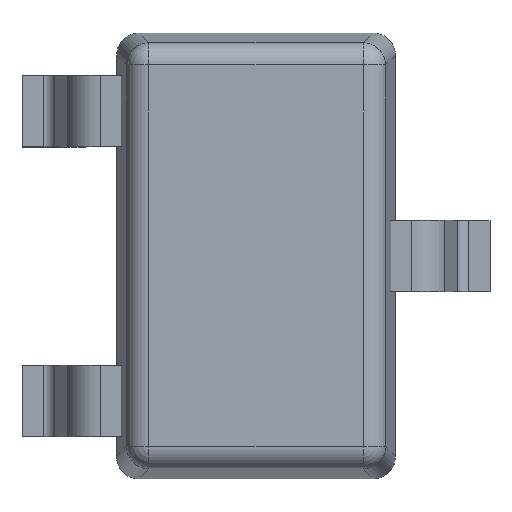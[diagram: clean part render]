
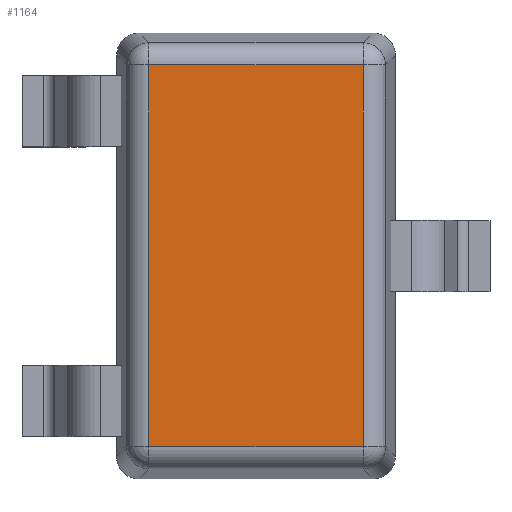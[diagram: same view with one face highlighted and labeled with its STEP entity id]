
A CAD part, top view. The second image highlights one B-rep face of the part: STEP entity #1164.
In plain terms, the highlighted planar face has unit normal (0, 0, 1).
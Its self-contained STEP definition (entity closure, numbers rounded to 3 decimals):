
#124=ORIENTED_EDGE('',*,*,#468,.T.);
#125=ORIENTED_EDGE('',*,*,#469,.T.);
#126=ORIENTED_EDGE('',*,*,#470,.T.);
#127=ORIENTED_EDGE('',*,*,#471,.T.);
#468=EDGE_CURVE('',#640,#641,#744,.F.);
#469=EDGE_CURVE('',#641,#642,#745,.F.);
#470=EDGE_CURVE('',#642,#643,#746,.F.);
#471=EDGE_CURVE('',#643,#640,#747,.F.);
#640=VERTEX_POINT('',#1822);
#641=VERTEX_POINT('',#1823);
#642=VERTEX_POINT('',#1825);
#643=VERTEX_POINT('',#1827);
#744=LINE('',#1821,#864);
#745=LINE('',#1824,#865);
#746=LINE('',#1826,#866);
#747=LINE('',#1828,#867);
#864=VECTOR('',#1433,1000.);
#865=VECTOR('',#1434,1000.);
#866=VECTOR('',#1435,1000.);
#867=VECTOR('',#1436,1000.);
#972=EDGE_LOOP('',(#124,#125,#126,#127));
#1048=FACE_BOUND('',#972,.T.);
#1124=PLANE('',#1281);
#1164=ADVANCED_FACE('',(#1048),#1124,.F.);
#1281=AXIS2_PLACEMENT_3D('',#1820,#1431,#1432);
#1431=DIRECTION('',(0.,0.,-1.));
#1432=DIRECTION('',(-1.,0.,0.));
#1433=DIRECTION('',(0.,1.,0.));
#1434=DIRECTION('',(-1.,0.,0.));
#1435=DIRECTION('',(0.,-1.,0.));
#1436=DIRECTION('',(1.,0.,0.));
#1820=CARTESIAN_POINT('',(0.,0.,0.4));
#1821=CARTESIAN_POINT('',(-0.482,-0.944,0.4));
#1822=CARTESIAN_POINT('',(-0.482,0.857,0.4));
#1823=CARTESIAN_POINT('',(-0.482,-0.857,0.4));
#1824=CARTESIAN_POINT('',(0.569,-0.857,0.4));
#1825=CARTESIAN_POINT('',(0.482,-0.857,0.4));
#1826=CARTESIAN_POINT('',(0.482,0.944,0.4));
#1827=CARTESIAN_POINT('',(0.482,0.857,0.4));
#1828=CARTESIAN_POINT('',(-0.569,0.857,0.4));
